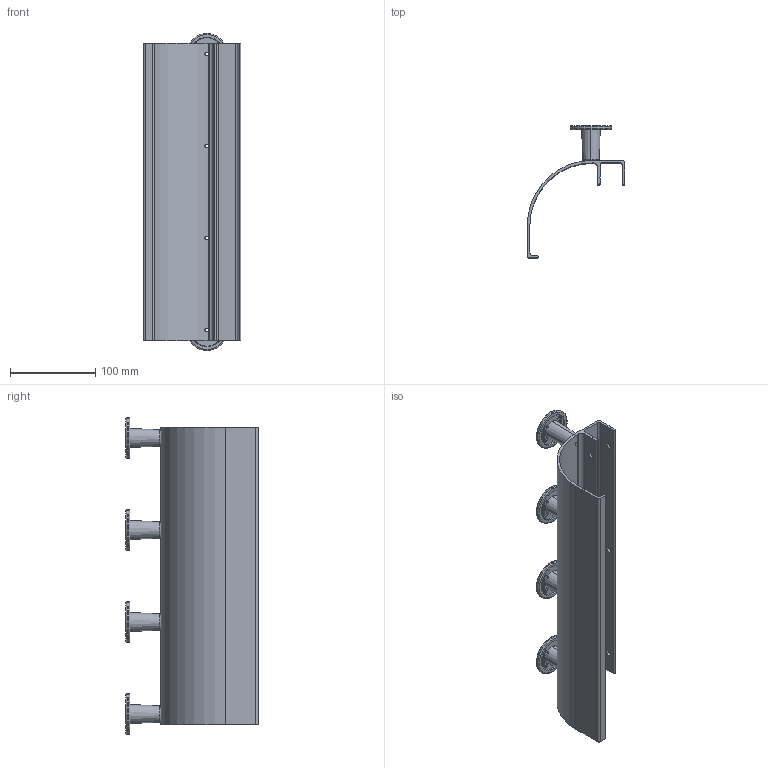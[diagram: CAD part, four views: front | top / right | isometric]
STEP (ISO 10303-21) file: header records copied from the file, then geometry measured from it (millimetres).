
FILE_DESCRIPTION (( 'STEP AP203' ), '1' );
FILE_NAME ('lrd15blk.STEP', '2019-01-10T18:45:30', ( '' ), ( '' ), 'SwSTEP 2.0', 'SolidWorks 2016', '' );
FILE_SCHEMA (( 'CONFIG_CONTROL_DESIGN' ));
Length unit declared in the file: inch
Products named in the file (3): lrd15blk; 89170362; 89170352
Assembly tree (5 placements, depth 2):
  lrd15blk
    89170362
    89170352  x4
Bounding box: 114.3 x 154.94 x 372.11 mm (x, y, z)
Volume: 326606.3 mm3; surface area: 210225 mm2
Topology: 5 solids, 5 shells, 669 faces, 1643 edges, 914 vertices
Faces by surface type: cylinder 180, torus 140, bspline 128, plane 121, sphere 64, cone 36
Entity records: 8732 total; most frequent: CARTESIAN_POINT 2585, ORIENTED_EDGE 1280, DIRECTION 1184, EDGE_CURVE 640, AXIS2_PLACEMENT_3D 485, VERTEX_POINT 389, CIRCLE 266, EDGE_LOOP 257
